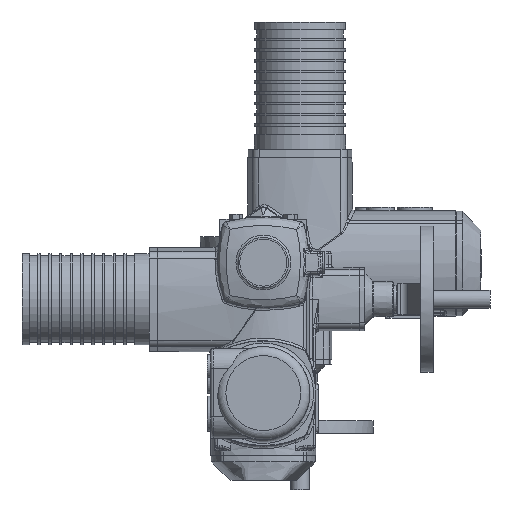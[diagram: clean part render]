
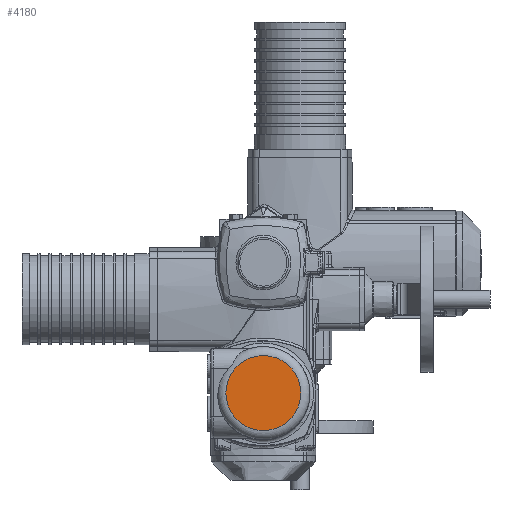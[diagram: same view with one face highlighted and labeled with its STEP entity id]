
A CAD part, top view. The second image highlights one B-rep face of the part: STEP entity #4180.
In plain terms, the highlighted planar face has unit normal (0, 0, 1) as drawn and (0, 0, -1) by its records, which use the part's own axes.
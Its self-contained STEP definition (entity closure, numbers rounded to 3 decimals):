
#4180 = ADVANCED_FACE( '', ( #8649 ), #8650, .F. );
#8649 = FACE_OUTER_BOUND( '', #19659, .T. );
#8650 = PLANE( '', #19660 );
#19659 = EDGE_LOOP( '', ( #34509 ) );
#19660 = AXIS2_PLACEMENT_3D( '', #34510, #34511, #34512 );
#34509 = ORIENTED_EDGE( '', *, *, #35417, .T. );
#34510 = CARTESIAN_POINT( '', ( 143., 0., -209. ) );
#34511 = DIRECTION( '', ( 0., 0., 1. ) );
#34512 = DIRECTION( '', ( 1., 0., 0. ) );
#35417 = EDGE_CURVE( '', #40555, #40555, #40556, .F. );
#40555 = VERTEX_POINT( '', #50807 );
#40556 = CIRCLE( '', #50808, 41. );
#50807 = CARTESIAN_POINT( '', ( 184., 0., -209. ) );
#50808 = AXIS2_PLACEMENT_3D( '', #70225, #70226, #70227 );
#70225 = CARTESIAN_POINT( '', ( 143., 0., -209. ) );
#70226 = DIRECTION( '', ( 0., 0., 1. ) );
#70227 = DIRECTION( '', ( 1., 0., 0. ) );
